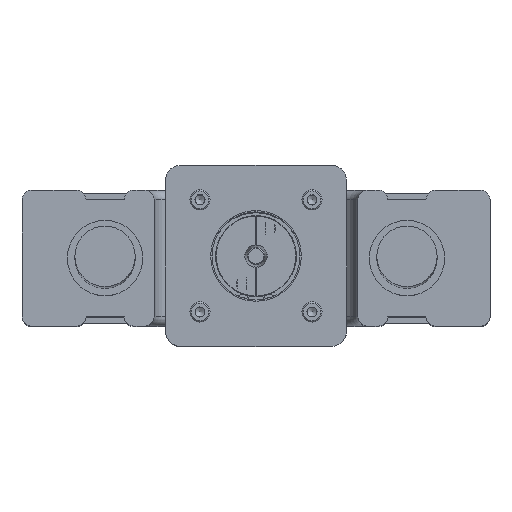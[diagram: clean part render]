
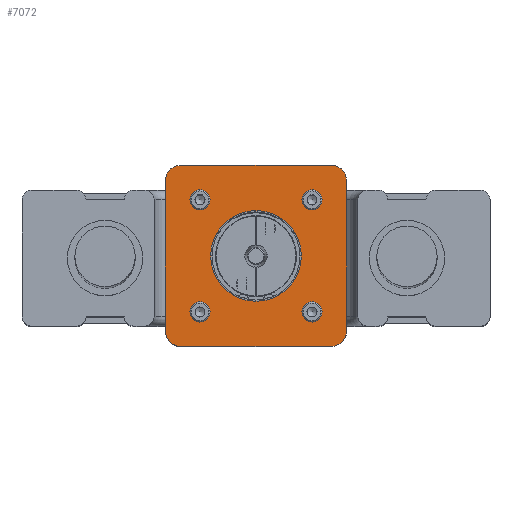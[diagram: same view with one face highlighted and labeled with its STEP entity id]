
A CAD part, top view. The second image highlights one B-rep face of the part: STEP entity #7072.
In plain terms, the highlighted planar face has unit normal (0, 0, 1).
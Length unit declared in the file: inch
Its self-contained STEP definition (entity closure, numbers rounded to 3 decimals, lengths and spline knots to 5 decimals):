
#390 = CARTESIAN_POINT ( 'NONE',  ( -0.92808, -0.92808, 4.03 ) ) ;
#606 = AXIS2_PLACEMENT_3D ( 'NONE', #16245, #11957, #5969 ) ;
#636 = FACE_BOUND ( 'NONE', #19113, .T. ) ;
#753 = AXIS2_PLACEMENT_3D ( 'NONE', #390, #10413, #4151 ) ;
#866 = DIRECTION ( 'NONE',  ( 1., 0., 0. ) ) ;
#888 = DIRECTION ( 'NONE',  ( 1., 0., 0. ) ) ;
#912 = CARTESIAN_POINT ( 'NONE',  ( 1.02653, 0.92808, 4.03 ) ) ;
#1073 = VECTOR ( 'NONE', #17572, 39.37008 ) ;
#1101 = DIRECTION ( 'NONE',  ( 1., 0., 0. ) ) ;
#1262 = AXIS2_PLACEMENT_3D ( 'NONE', #20401, #2268, #12160 ) ;
#1563 = EDGE_LOOP ( 'NONE', ( #6841 ) ) ;
#1716 = DIRECTION ( 'NONE',  ( 0., 0., 1. ) ) ;
#1865 = VERTEX_POINT ( 'NONE', #9804 ) ;
#1969 = EDGE_CURVE ( 'NONE', #14319, #9802, #19966, .T. ) ;
#2089 = ORIENTED_EDGE ( 'NONE', *, *, #1969, .T. ) ;
#2096 = AXIS2_PLACEMENT_3D ( 'NONE', #4312, #1716, #9653 ) ;
#2268 = DIRECTION ( 'NONE',  ( 0., 0., 1. ) ) ;
#2304 = DIRECTION ( 'NONE',  ( 0., 0., 1. ) ) ;
#2821 = VERTEX_POINT ( 'NONE', #12883 ) ;
#2863 = VERTEX_POINT ( 'NONE', #912 ) ;
#3026 = CARTESIAN_POINT ( 'NONE',  ( 1.499, 1.249, 4.03 ) ) ;
#3362 = VERTEX_POINT ( 'NONE', #23056 ) ;
#3956 = DIRECTION ( 'NONE',  ( 0., 0., 1. ) ) ;
#4151 = DIRECTION ( 'NONE',  ( -1., 0., 0. ) ) ;
#4312 = CARTESIAN_POINT ( 'NONE',  ( 0.92808, -0.92808, 4.03 ) ) ;
#4317 = DIRECTION ( 'NONE',  ( -1., 0., 0. ) ) ;
#4480 = ORIENTED_EDGE ( 'NONE', *, *, #13426, .T. ) ;
#5647 = CARTESIAN_POINT ( 'NONE',  ( 1.499, 1.249, 4.03 ) ) ;
#5876 = DIRECTION ( 'NONE',  ( 0., 0., 1. ) ) ;
#5965 = AXIS2_PLACEMENT_3D ( 'NONE', #25193, #13447, #1101 ) ;
#5969 = DIRECTION ( 'NONE',  ( 1., 0., 0. ) ) ;
#6008 = CARTESIAN_POINT ( 'NONE',  ( 1.249, 1.249, 4.03 ) ) ;
#6044 = DIRECTION ( 'NONE',  ( 1., 0., 0. ) ) ;
#6192 = AXIS2_PLACEMENT_3D ( 'NONE', #14402, #2304, #866 ) ;
#6841 = ORIENTED_EDGE ( 'NONE', *, *, #10874, .F. ) ;
#6877 = CARTESIAN_POINT ( 'NONE',  ( -1.77594, 1.6875, 4.03 ) ) ;
#7072 = ADVANCED_FACE ( 'NONE', ( #636, #16504, #24479, #14552, #22521, #18851 ), #16885, .T. ) ;
#7131 = CARTESIAN_POINT ( 'NONE',  ( 0., 0., 4.03 ) ) ;
#7233 = EDGE_CURVE ( 'NONE', #8858, #21530, #8902, .T. ) ;
#8208 = VERTEX_POINT ( 'NONE', #22282 ) ;
#8853 = EDGE_CURVE ( 'NONE', #22612, #1865, #25426, .T. ) ;
#8858 = VERTEX_POINT ( 'NONE', #14191 ) ;
#8902 = CIRCLE ( 'NONE', #5965, 0.25 ) ;
#9638 = CARTESIAN_POINT ( 'NONE',  ( -1.249, -1.499, 4.03 ) ) ;
#9653 = DIRECTION ( 'NONE',  ( 0., -1., 0. ) ) ;
#9802 = VERTEX_POINT ( 'NONE', #3026 ) ;
#9804 = CARTESIAN_POINT ( 'NONE',  ( 1.249, -1.499, 4.03 ) ) ;
#10023 = EDGE_LOOP ( 'NONE', ( #23978 ) ) ;
#10074 = EDGE_CURVE ( 'NONE', #8208, #8208, #11959, .T. ) ;
#10413 = DIRECTION ( 'NONE',  ( 0., 0., 1. ) ) ;
#10476 = CARTESIAN_POINT ( 'NONE',  ( -1.499, 1.249, 4.03 ) ) ;
#10856 = ORIENTED_EDGE ( 'NONE', *, *, #22192, .T. ) ;
#10874 = EDGE_CURVE ( 'NONE', #2863, #2863, #15739, .T. ) ;
#10950 = EDGE_LOOP ( 'NONE', ( #21039 ) ) ;
#10973 = AXIS2_PLACEMENT_3D ( 'NONE', #6877, #12736, #888 ) ;
#10976 = CIRCLE ( 'NONE', #606, 0.25 ) ;
#11198 = LINE ( 'NONE', #11324, #21816 ) ;
#11272 = VERTEX_POINT ( 'NONE', #18019 ) ;
#11324 = CARTESIAN_POINT ( 'NONE',  ( -1.499, 1.249, 4.03 ) ) ;
#11531 = EDGE_CURVE ( 'NONE', #11272, #8858, #16162, .T. ) ;
#11642 = DIRECTION ( 'NONE',  ( 0., 1., 0. ) ) ;
#11822 = VERTEX_POINT ( 'NONE', #23947 ) ;
#11957 = DIRECTION ( 'NONE',  ( 0., 0., 1. ) ) ;
#11959 = CIRCLE ( 'NONE', #753, 0.09845 ) ;
#12160 = DIRECTION ( 'NONE',  ( 0., 1., 0. ) ) ;
#12527 = VECTOR ( 'NONE', #11642, 39.37008 ) ;
#12736 = DIRECTION ( 'NONE',  ( 0., 0., 1. ) ) ;
#12883 = CARTESIAN_POINT ( 'NONE',  ( -1.499, -1.249, 4.03 ) ) ;
#13327 = CIRCLE ( 'NONE', #2096, 0.09845 ) ;
#13426 = EDGE_CURVE ( 'NONE', #1865, #14319, #10976, .T. ) ;
#13447 = DIRECTION ( 'NONE',  ( 0., 0., 1. ) ) ;
#13775 = EDGE_CURVE ( 'NONE', #3362, #3362, #18906, .T. ) ;
#14141 = CIRCLE ( 'NONE', #1262, 0.09845 ) ;
#14191 = CARTESIAN_POINT ( 'NONE',  ( -1.249, 1.499, 4.03 ) ) ;
#14319 = VERTEX_POINT ( 'NONE', #17981 ) ;
#14402 = CARTESIAN_POINT ( 'NONE',  ( 0.92808, 0.92808, 4.03 ) ) ;
#14552 = FACE_BOUND ( 'NONE', #1563, .T. ) ;
#14731 = AXIS2_PLACEMENT_3D ( 'NONE', #7131, #23034, #21073 ) ;
#15393 = AXIS2_PLACEMENT_3D ( 'NONE', #6008, #5876, #19937 ) ;
#15499 = ORIENTED_EDGE ( 'NONE', *, *, #16469, .F. ) ;
#15598 = EDGE_CURVE ( 'NONE', #2821, #22612, #16882, .T. ) ;
#15739 = CIRCLE ( 'NONE', #6192, 0.09845 ) ;
#15972 = CARTESIAN_POINT ( 'NONE',  ( 0.92808, -1.02653, 4.03 ) ) ;
#16068 = ORIENTED_EDGE ( 'NONE', *, *, #7233, .T. ) ;
#16162 = LINE ( 'NONE', #24001, #25775 ) ;
#16245 = CARTESIAN_POINT ( 'NONE',  ( 1.249, -1.249, 4.03 ) ) ;
#16447 = ORIENTED_EDGE ( 'NONE', *, *, #8853, .T. ) ;
#16469 = EDGE_CURVE ( 'NONE', #11822, #11822, #14141, .T. ) ;
#16504 = FACE_BOUND ( 'NONE', #10023, .T. ) ;
#16840 = EDGE_CURVE ( 'NONE', #9802, #11272, #22077, .T. ) ;
#16882 = CIRCLE ( 'NONE', #23551, 0.25 ) ;
#16885 = PLANE ( 'NONE',  #10973 ) ;
#16991 = EDGE_CURVE ( 'NONE', #25647, #25647, #13327, .T. ) ;
#17471 = ORIENTED_EDGE ( 'NONE', *, *, #11531, .T. ) ;
#17572 = DIRECTION ( 'NONE',  ( 1., 0., 0. ) ) ;
#17755 = CARTESIAN_POINT ( 'NONE',  ( -1.249, -1.249, 4.03 ) ) ;
#17902 = ORIENTED_EDGE ( 'NONE', *, *, #16991, .F. ) ;
#17981 = CARTESIAN_POINT ( 'NONE',  ( 1.499, -1.249, 4.03 ) ) ;
#18019 = CARTESIAN_POINT ( 'NONE',  ( 1.249, 1.499, 4.03 ) ) ;
#18673 = CARTESIAN_POINT ( 'NONE',  ( -1.249, -1.499, 4.03 ) ) ;
#18851 = FACE_OUTER_BOUND ( 'NONE', #21633, .T. ) ;
#18906 = CIRCLE ( 'NONE', #14731, 0.751 ) ;
#19113 = EDGE_LOOP ( 'NONE', ( #17902 ) ) ;
#19524 = DIRECTION ( 'NONE',  ( 0., -1., 0. ) ) ;
#19937 = DIRECTION ( 'NONE',  ( 1., 0., 0. ) ) ;
#19966 = LINE ( 'NONE', #5647, #12527 ) ;
#20401 = CARTESIAN_POINT ( 'NONE',  ( -0.92808, 0.92808, 4.03 ) ) ;
#21039 = ORIENTED_EDGE ( 'NONE', *, *, #13775, .F. ) ;
#21073 = DIRECTION ( 'NONE',  ( 1., 0., 0. ) ) ;
#21530 = VERTEX_POINT ( 'NONE', #10476 ) ;
#21633 = EDGE_LOOP ( 'NONE', ( #17471, #16068, #10856, #24570, #16447, #4480, #2089, #22407 ) ) ;
#21816 = VECTOR ( 'NONE', #19524, 39.37008 ) ;
#22077 = CIRCLE ( 'NONE', #15393, 0.25 ) ;
#22192 = EDGE_CURVE ( 'NONE', #21530, #2821, #11198, .T. ) ;
#22282 = CARTESIAN_POINT ( 'NONE',  ( -1.02653, -0.92808, 4.03 ) ) ;
#22407 = ORIENTED_EDGE ( 'NONE', *, *, #16840, .T. ) ;
#22521 = FACE_BOUND ( 'NONE', #10950, .T. ) ;
#22612 = VERTEX_POINT ( 'NONE', #18673 ) ;
#23034 = DIRECTION ( 'NONE',  ( 0., 0., 1. ) ) ;
#23056 = CARTESIAN_POINT ( 'NONE',  ( 0.751, 0., 4.03 ) ) ;
#23338 = EDGE_LOOP ( 'NONE', ( #15499 ) ) ;
#23551 = AXIS2_PLACEMENT_3D ( 'NONE', #17755, #3956, #6044 ) ;
#23947 = CARTESIAN_POINT ( 'NONE',  ( -0.92808, 1.02653, 4.03 ) ) ;
#23978 = ORIENTED_EDGE ( 'NONE', *, *, #10074, .F. ) ;
#24001 = CARTESIAN_POINT ( 'NONE',  ( -1.249, 1.499, 4.03 ) ) ;
#24479 = FACE_BOUND ( 'NONE', #23338, .T. ) ;
#24570 = ORIENTED_EDGE ( 'NONE', *, *, #15598, .T. ) ;
#25193 = CARTESIAN_POINT ( 'NONE',  ( -1.249, 1.249, 4.03 ) ) ;
#25426 = LINE ( 'NONE', #9638, #1073 ) ;
#25647 = VERTEX_POINT ( 'NONE', #15972 ) ;
#25775 = VECTOR ( 'NONE', #4317, 39.37008 ) ;
